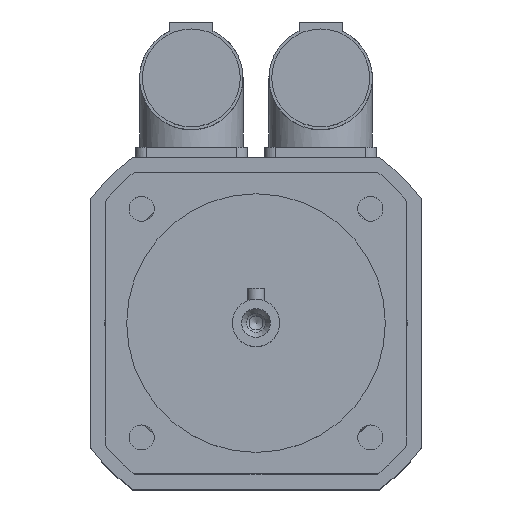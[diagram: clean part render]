
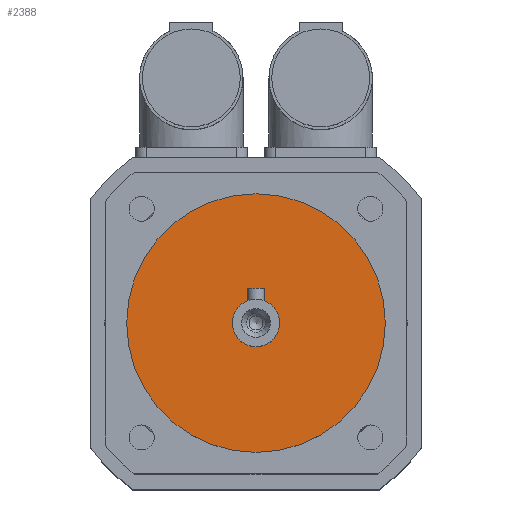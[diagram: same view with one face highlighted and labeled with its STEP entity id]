
A CAD part, top view. The second image highlights one B-rep face of the part: STEP entity #2388.
In plain terms, the highlighted planar face has unit normal (0, 0, 1).
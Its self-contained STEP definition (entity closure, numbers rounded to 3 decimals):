
#484=PLANE('',#2572);
#601=FACE_BOUND('',#819,.T.);
#665=FACE_OUTER_BOUND('',#818,.T.);
#818=EDGE_LOOP('',(#1867));
#819=EDGE_LOOP('',(#1868));
#965=CIRCLE('',#2571,5.5);
#966=CIRCLE('',#2573,30.);
#1130=VERTEX_POINT('',#3794);
#1131=VERTEX_POINT('',#3797);
#1405=EDGE_CURVE('',#1130,#1130,#965,.T.);
#1406=EDGE_CURVE('',#1131,#1131,#966,.T.);
#1867=ORIENTED_EDGE('',*,*,#1406,.F.);
#1868=ORIENTED_EDGE('',*,*,#1405,.T.);
#2388=ADVANCED_FACE('',(#665,#601),#484,.T.);
#2571=AXIS2_PLACEMENT_3D('',#3795,#2996,#2997);
#2572=AXIS2_PLACEMENT_3D('',#3796,#2998,#2999);
#2573=AXIS2_PLACEMENT_3D('',#3798,#3000,#3001);
#2996=DIRECTION('center_axis',(0.,0.,-1.));
#2997=DIRECTION('ref_axis',(1.,0.,0.));
#2998=DIRECTION('center_axis',(0.,0.,1.));
#2999=DIRECTION('ref_axis',(1.,0.,0.));
#3000=DIRECTION('center_axis',(0.,0.,-1.));
#3001=DIRECTION('ref_axis',(1.,0.,0.));
#3794=CARTESIAN_POINT('',(0.,5.5,111.));
#3795=CARTESIAN_POINT('Origin',(0.,0.,111.));
#3796=CARTESIAN_POINT('Origin',(0.,30.,111.));
#3797=CARTESIAN_POINT('',(0.,30.,111.));
#3798=CARTESIAN_POINT('Origin',(0.,0.,111.));
